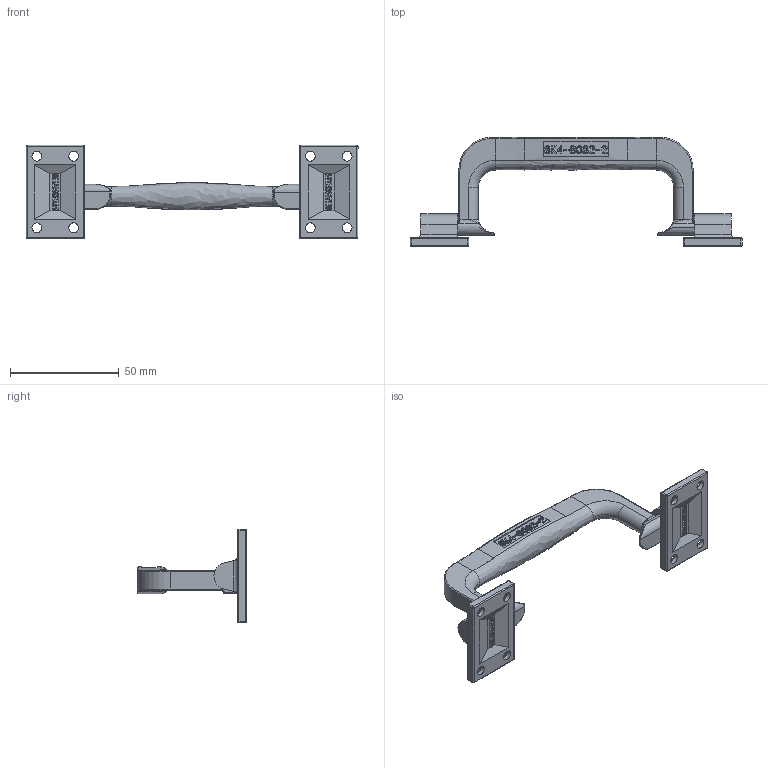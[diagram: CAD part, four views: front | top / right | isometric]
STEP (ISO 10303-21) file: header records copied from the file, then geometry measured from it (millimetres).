
FILE_DESCRIPTION (( 'STEP AP203' ), '1' );
FILE_NAME ('SK4-8082-2.STEP', '2018-11-02T05:39:20', ( 'admin' ), ( 'Microsoft' ), 'SwSTEP 2.0', 'SolidWorks 2015', '' );
FILE_SCHEMA (( 'CONFIG_CONTROL_DESIGN' ));
Length unit declared in the file: millimetre
Products named in the file (3): SK4-8082-2 釱赽; SK4-8082-2
Assembly tree (3 placements, depth 2):
  SK4-8082-2
    SK4-8082-2 釱赽  x2
    SK4-8082-2
Bounding box: 153 x 50.25 x 43 mm (x, y, z)
Volume: 31541.8 mm3; surface area: 15311.9 mm2
Topology: 3 solids, 3 shells, 571 faces, 1443 edges, 892 vertices
Faces by surface type: plane 282, bspline 129, cylinder 99, torus 25, sphere 20, cone 16
Entity records: 19724 total; most frequent: CARTESIAN_POINT 10524, ORIENTED_EDGE 1990, DIRECTION 1554, EDGE_CURVE 995, VERTEX_POINT 622, VECTOR 576, LINE 576, AXIS2_PLACEMENT_3D 489
